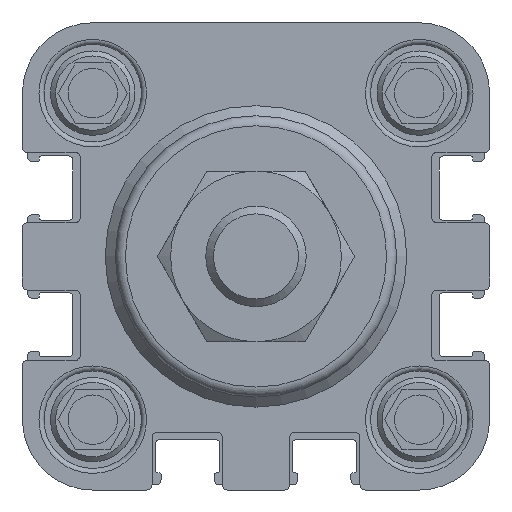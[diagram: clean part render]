
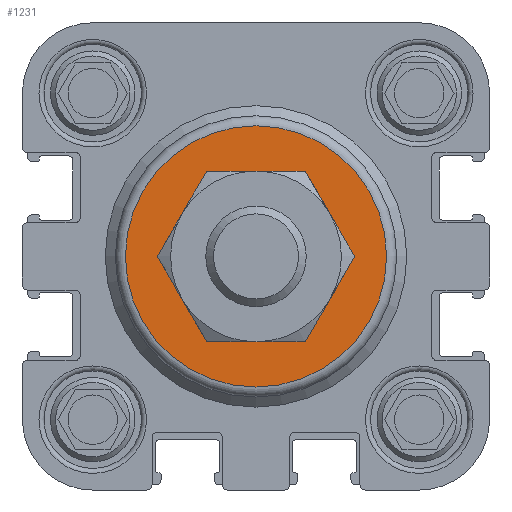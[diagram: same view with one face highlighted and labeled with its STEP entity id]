
A CAD part, left-side view. The second image highlights one B-rep face of the part: STEP entity #1231.
In plain terms, the highlighted planar face has unit normal (-1, 0, 0).
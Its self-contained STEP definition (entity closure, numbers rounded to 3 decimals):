
#1231 = ADVANCED_FACE( '', ( #2676, #2677 ), #2678, .F. );
#2676 = FACE_BOUND( '', #4304, .T. );
#2677 = FACE_OUTER_BOUND( '', #4305, .T. );
#2678 = PLANE( '', #4306 );
#4304 = EDGE_LOOP( '', ( #7748 ) );
#4305 = EDGE_LOOP( '', ( #7749 ) );
#4306 = AXIS2_PLACEMENT_3D( '', #7750, #7751, #7752 );
#7748 = ORIENTED_EDGE( '', *, *, #10583, .F. );
#7749 = ORIENTED_EDGE( '', *, *, #10137, .T. );
#7750 = CARTESIAN_POINT( '', ( -19., 0., 13. ) );
#7751 = DIRECTION( '', ( 1., 0., 0. ) );
#7752 = DIRECTION( '', ( 0., 0., -1. ) );
#10137 = EDGE_CURVE( '', #12430, #12430, #12431, .T. );
#10583 = EDGE_CURVE( '', #13031, #13031, #13032, .F. );
#12430 = VERTEX_POINT( '', #15496 );
#12431 = CIRCLE( '', #15497, 13. );
#13031 = VERTEX_POINT( '', #16368 );
#13032 = CIRCLE( '', #16369, 6. );
#15496 = CARTESIAN_POINT( '', ( -19., 0., 13. ) );
#15497 = AXIS2_PLACEMENT_3D( '', #18024, #18025, #18026 );
#16368 = CARTESIAN_POINT( '', ( -19., 0., -6. ) );
#16369 = AXIS2_PLACEMENT_3D( '', #18507, #18508, #18509 );
#18024 = CARTESIAN_POINT( '', ( -19., 0., 0. ) );
#18025 = DIRECTION( '', ( -1., 0., 0. ) );
#18026 = DIRECTION( '', ( 0., 0., 1. ) );
#18507 = CARTESIAN_POINT( '', ( -19., 0., 0. ) );
#18508 = DIRECTION( '', ( 1., 0., 0. ) );
#18509 = DIRECTION( '', ( 0., 0., -1. ) );
